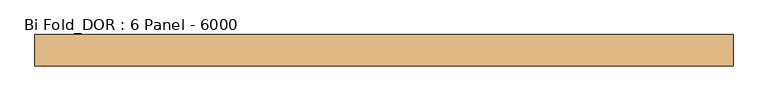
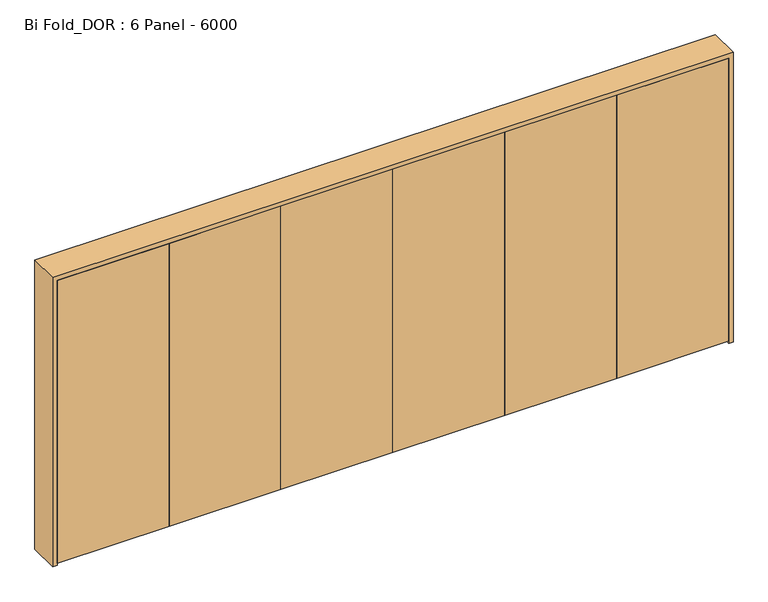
"""IFC4 building model written with IfcOpenShell, lengths in millimetres: door geometry, Bi Fold_DOR : 6 Panel - 6000."""

from ifc_helpers import new_model, si_unit, frame, origin, place, context, project, spatial, polyline, outline, extrude, source, transform, mapped, element, save


def bi_fold_dor_6_panel_6000_958885f1(model_context):
    return source(origin(), model_context, "Body", "SweptSolid", [
        extrude(outline(polyline([(2960.0, -95.0), (2960.0, -135.0), (1973.3333333, -135.0), (1973.3333333, -95.0), (2960.0, -95.0)])), frame((0.0, 0.0, 20.0), z_axis=(0.0, 0.0, 1.0), x_axis=(1.0, 0.0, 0.0)), (0.0, 0.0, 1.0), 2640.0),
        extrude(outline(polyline([(1973.3333333, -95.0), (1973.3333333, -135.0), (986.6666667, -135.0), (986.6666667, -95.0), (1973.3333333, -95.0)])), frame((0.0, 0.0, 20.0), z_axis=(0.0, 0.0, 1.0), x_axis=(1.0, 0.0, 0.0)), (0.0, 0.0, 1.0), 2640.0),
        extrude(outline(polyline([(986.6666667, -95.0), (986.6666667, -135.0), (0.0, -135.0), (0.0, -95.0), (986.6666667, -95.0)])), frame((0.0, 0.0, 20.0), z_axis=(0.0, 0.0, 1.0), x_axis=(1.0, 0.0, 0.0)), (0.0, 0.0, 1.0), 2640.0),
        extrude(outline(polyline([(0.0, -95.0), (0.0, -135.0), (-986.6666667, -135.0), (-986.6666667, -95.0), (0.0, -95.0)])), frame((0.0, 0.0, 20.0), z_axis=(0.0, 0.0, 1.0), x_axis=(1.0, 0.0, 0.0)), (0.0, 0.0, 1.0), 2640.0),
        extrude(outline(polyline([(-986.6666667, -95.0), (-986.6666667, -135.0), (-1973.3333333, -135.0), (-1973.3333333, -95.0), (-986.6666667, -95.0)])), frame((0.0, 0.0, 20.0), z_axis=(0.0, 0.0, 1.0), x_axis=(1.0, 0.0, 0.0)), (0.0, 0.0, 1.0), 2640.0),
        extrude(outline(polyline([(-1973.3333333, -95.0), (-1973.3333333, -135.0), (-2960.0, -135.0), (-2960.0, -95.0), (-1973.3333333, -95.0)])), frame((0.0, 0.0, 20.0), z_axis=(0.0, 0.0, 1.0), x_axis=(1.0, 0.0, 0.0)), (0.0, 0.0, 1.0), 2640.0),
        extrude(outline(polyline([(0.0, 3000.0), (2700.0, 3000.0), (2700.0, -3000.0), (0.0, -3000.0), (0.0, -2960.0), (2660.0, -2960.0), (2660.0, 2960.0), (0.0, 2960.0), (0.0, 3000.0)])), frame((0.0, -135.0, 0.0), z_axis=(0.0, 1.0, 0.0), x_axis=(0.0, 0.0, 1.0)), (0.0, 0.0, 1.0), 270.0),
    ])


if __name__ == "__main__":
    model = new_model("IFC4")
    model_context = context("Model", 3, world=origin())
    ifc_project = project(units=[si_unit("LENGTHUNIT", "METRE", prefix="MILLI")], contexts=[model_context])
    site = spatial("IfcSite", under=ifc_project)
    building = spatial("IfcBuilding", under=site)
    placement = place(None, origin())
    bi_fold_dor_6_panel_6000_shape = bi_fold_dor_6_panel_6000_958885f1(model_context)
    element("IfcDoor", 1, ObjectType="Bi Fold_DOR : 6 Panel - 6000", at=placement, inside=building, context=model_context, shape_type="MappedRepresentation", body=[
        mapped(bi_fold_dor_6_panel_6000_shape, transform((0.0, 0.0, 0.0), x_axis=(1.0, 0.0, 0.0), y_axis=(0.0, 1.0, 0.0), z_axis=(0.0, 0.0, 1.0))),
    ])
    save(model, "model.ifc")
